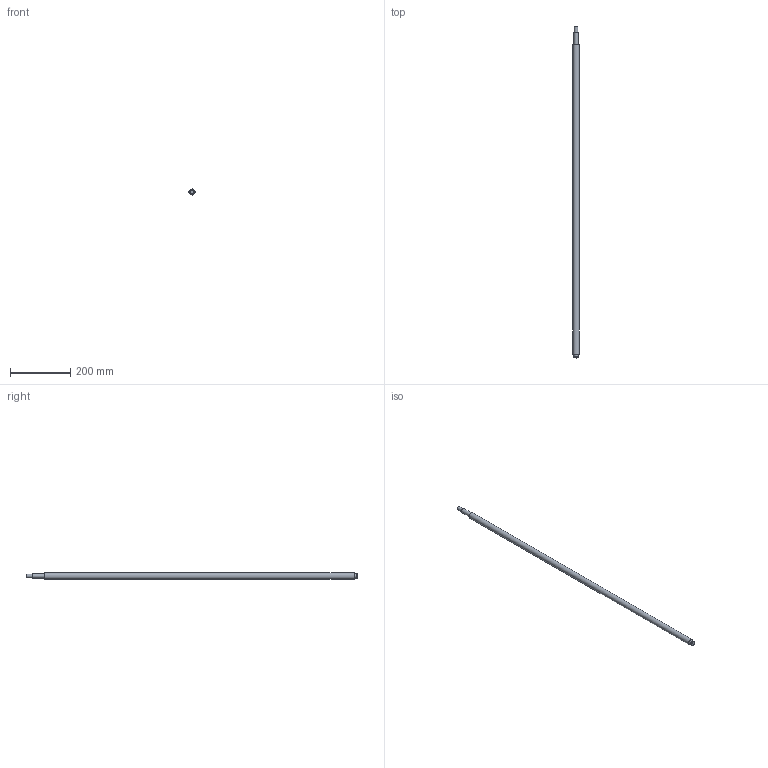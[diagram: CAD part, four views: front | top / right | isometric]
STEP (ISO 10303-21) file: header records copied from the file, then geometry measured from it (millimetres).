
FILE_DESCRIPTION(/* description */ (''),/* implementation_level */ '2;1');
FILE_NAME(/* name */ 'C:\Users\David\Desktop\stepFiles\Profilfuehrung\KUS2005x1100.stp',/* time_stamp */ '2018-06-24T15:12:10+02:00',/* author */ ('David'),/* organization */ (''),/* preprocessor_version */ 'ST-DEVELOPER v17',/* originating_system */ 'Autodesk Inventor 2019',/* authorisation */ '');
FILE_SCHEMA (('AUTOMOTIVE_DESIGN { 1 0 10303 214 3 1 1 }'));
Length unit declared in the file: millimetre
Products named in the file (1): SFU2005xvaiabel
Bounding box: 20 x 1100 x 20 mm (x, y, z)
Volume: 334240.5 mm3; surface area: 68412.4 mm2
Topology: 1 solids, 1 shells, 15 faces, 34 edges, 26 vertices
Faces by surface type: plane 7, cylinder 6, cone 2
Full cylindrical faces by diameter (mm): 12 x1, 14.3 x1, 15 x3, 20 x1
Entity records: 493 total; most frequent: DIRECTION 92, CARTESIAN_POINT 76, ORIENTED_EDGE 68, AXIS2_PLACEMENT_3D 42, EDGE_CURVE 34, CIRCLE 26, VERTEX_POINT 26, EDGE_LOOP 20
